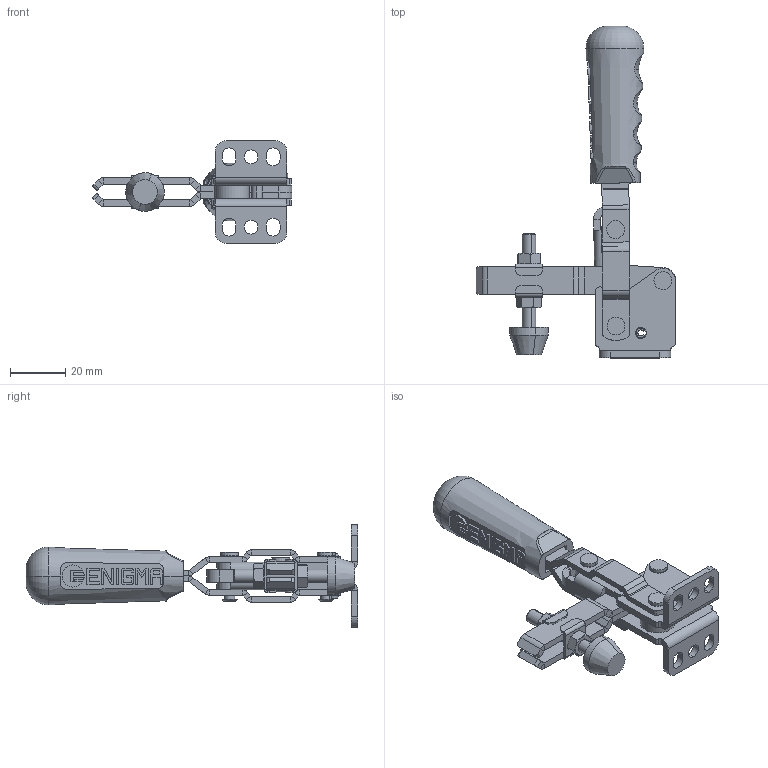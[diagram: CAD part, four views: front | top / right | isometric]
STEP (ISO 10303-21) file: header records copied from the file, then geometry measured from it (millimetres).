
FILE_DESCRIPTION (( 'STEP AP214' ), '1' );
FILE_NAME ('1101-Y.STEP', '2022-05-30T09:48:42', ( '' ), ( '' ), 'SwSTEP 2.0', 'SolidWorks 2020', '' );
FILE_SCHEMA (( 'AUTOMOTIVE_DESIGN' ));
Length unit declared in the file: millimetre
Products named in the file (17): 1101 HAREKET KOLU_2022; M5 Aský; 1101 Y Gövde_2022; 4x16_YARIKLI_P嵱; 1101 BASKI KOLU_2022; Aynalama1101 HAREKET KOLU_2022; M5_BASKI_PABUCU; 4x17_PERﾇﾝN; M5_BASKI_GRUBU^1101 Y-D MONTAJ; 4x12_5_PERﾇﾝN; Aynalama1101 Y Gövde_2022; M5 Somun; Ø12,5xØ7,5x5_YÜZÜK; 1101 MAFSAL_2022; 1101-Y; 7x4x10_BURÇ; C55_Yeni_Tutamak
Assembly tree (21 placements, depth 3):
  1101-Y
    1101 Y Gövde_2022
    1101 BASKI KOLU_2022  x2
    1101 HAREKET KOLU_2022
    1101 MAFSAL_2022
    4x12_5_PERﾇﾝN  x2
    4x17_PERﾇﾝN  x2
    7x4x10_BURÇ
    Ø12,5xØ7,5x5_YÜZÜK
    Aynalama1101 Y Gövde_2022
    Aynalama1101 HAREKET KOLU_2022
    4x16_YARIKLI_P嵱
    C55_Yeni_Tutamak
    M5_BASKI_GRUBU^1101 Y-D MONTAJ
      M5 Aský  x2
      M5 Somun  x2
      M5_BASKI_PABUCU
Bounding box: 72.58 x 120.5 x 37.3 mm (x, y, z)
Volume: 31044.3 mm3; surface area: 26292.9 mm2
Topology: 20 solids, 20 shells, 917 faces, 2230 edges, 1382 vertices
Faces by surface type: plane 572, cylinder 267, cone 36, torus 34, bspline 8
Entity records: 23120 total; most frequent: CARTESIAN_POINT 5186, DIRECTION 3651, ORIENTED_EDGE 3486, EDGE_CURVE 1743, AXIS2_PLACEMENT_3D 1247, LINE 1157, VECTOR 1157, VERTEX_POINT 1084
